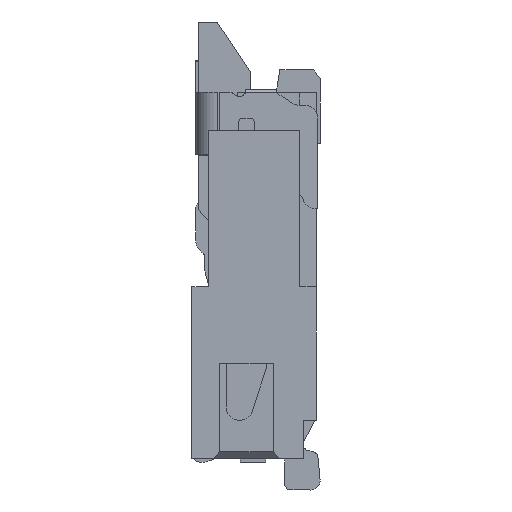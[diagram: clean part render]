
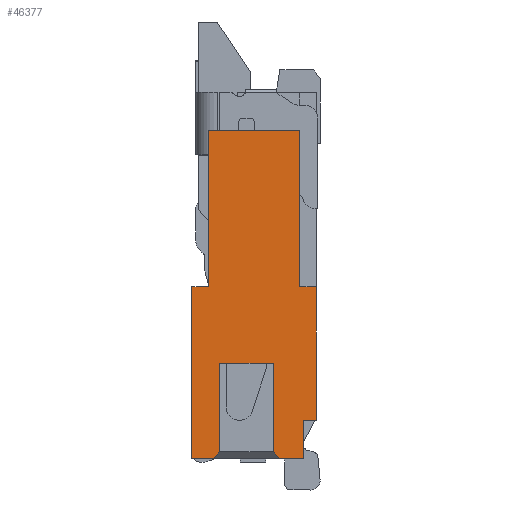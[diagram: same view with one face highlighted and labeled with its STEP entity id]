
A CAD part, left-side view. The second image highlights one B-rep face of the part: STEP entity #46377.
In plain terms, the highlighted planar face has unit normal (-1, 0, 0).
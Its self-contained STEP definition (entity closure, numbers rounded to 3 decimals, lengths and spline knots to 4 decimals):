
#621 = DIRECTION ( 'NONE',  ( 0., 0., 1. ) ) ;
#3571 = DIRECTION ( 'NONE',  ( 0., 1., 0. ) ) ;
#4085 = CARTESIAN_POINT ( 'NONE',  ( -2.1, -0.88, -2.88 ) ) ;
#6993 = CARTESIAN_POINT ( 'NONE',  ( -2.1, -0.64, -2.13 ) ) ;
#7133 = VECTOR ( 'NONE', #59620, 1000. ) ;
#8772 = VERTEX_POINT ( 'NONE', #51119 ) ;
#9006 = LINE ( 'NONE', #27615, #35244 ) ;
#9305 = LINE ( 'NONE', #16772, #62845 ) ;
#10068 = VECTOR ( 'NONE', #621, 1000. ) ;
#10112 = CARTESIAN_POINT ( 'NONE',  ( -2.1, -0.13, -0.3 ) ) ;
#10311 = CARTESIAN_POINT ( 'NONE',  ( -2.1, -0.22, -2.83 ) ) ;
#11397 = CARTESIAN_POINT ( 'NONE',  ( -2.1, -0.22, -2.13 ) ) ;
#12076 = DIRECTION ( 'NONE',  ( 0., 0., 1. ) ) ;
#12144 = EDGE_CURVE ( 'NONE', #80638, #29284, #83424, .T. ) ;
#12417 = VERTEX_POINT ( 'NONE', #11397 ) ;
#12573 = VECTOR ( 'NONE', #79773, 1000. ) ;
#12638 = CARTESIAN_POINT ( 'NONE',  ( -2.1, -0.17, -2.88 ) ) ;
#14072 = ORIENTED_EDGE ( 'NONE', *, *, #82158, .T. ) ;
#16772 = CARTESIAN_POINT ( 'NONE',  ( -2.1, -0.98, -1.53 ) ) ;
#17283 = CARTESIAN_POINT ( 'NONE',  ( -2.1, -0.88, -2.58 ) ) ;
#17541 = VECTOR ( 'NONE', #79291, 1000. ) ;
#17847 = ORIENTED_EDGE ( 'NONE', *, *, #82061, .F. ) ;
#18958 = VECTOR ( 'NONE', #12076, 1000. ) ;
#19109 = LINE ( 'NONE', #72044, #18958 ) ;
#19123 = EDGE_LOOP ( 'NONE', ( #14072, #72172, #57610, #71465, #80764, #67945, #69269, #61207, #38082, #17847, #73382, #20273, #27007, #73166, #48769, #27645 ) ) ;
#19335 = LINE ( 'NONE', #24653, #17541 ) ;
#20256 = LINE ( 'NONE', #66989, #12573 ) ;
#20273 = ORIENTED_EDGE ( 'NONE', *, *, #22013, .T. ) ;
#22013 = EDGE_CURVE ( 'NONE', #34588, #72529, #31197, .T. ) ;
#22245 = LINE ( 'NONE', #49148, #83255 ) ;
#24653 = CARTESIAN_POINT ( 'NONE',  ( -2.1, -0.13, -0.3 ) ) ;
#24884 = VECTOR ( 'NONE', #38880, 1000. ) ;
#25669 = CARTESIAN_POINT ( 'NONE',  ( -2.1, 0., -2.88 ) ) ;
#26812 = CARTESIAN_POINT ( 'NONE',  ( -2.1, -0.64, -2.83 ) ) ;
#27007 = ORIENTED_EDGE ( 'NONE', *, *, #40701, .T. ) ;
#27615 = CARTESIAN_POINT ( 'NONE',  ( -2.1, -0.88, -2.88 ) ) ;
#27645 = ORIENTED_EDGE ( 'NONE', *, *, #84357, .T. ) ;
#27773 = CARTESIAN_POINT ( 'NONE',  ( -2.1, -0.17, -2.88 ) ) ;
#29284 = VERTEX_POINT ( 'NONE', #70118 ) ;
#31197 = LINE ( 'NONE', #12638, #40808 ) ;
#31320 = VERTEX_POINT ( 'NONE', #46216 ) ;
#31659 = DIRECTION ( 'NONE',  ( 0., 0., -1. ) ) ;
#31668 = DIRECTION ( 'NONE',  ( 0., -1., 0. ) ) ;
#32094 = VERTEX_POINT ( 'NONE', #78637 ) ;
#33196 = LINE ( 'NONE', #80787, #35844 ) ;
#34307 = CARTESIAN_POINT ( 'NONE',  ( -2.1, -0.64, -2.13 ) ) ;
#34588 = VERTEX_POINT ( 'NONE', #27773 ) ;
#35244 = VECTOR ( 'NONE', #37195, 1000. ) ;
#35844 = VECTOR ( 'NONE', #73755, 1000. ) ;
#37097 = DIRECTION ( 'NONE',  ( 1., 0., 0. ) ) ;
#37195 = DIRECTION ( 'NONE',  ( 0., 0., 1. ) ) ;
#38082 = ORIENTED_EDGE ( 'NONE', *, *, #75233, .T. ) ;
#38471 = LINE ( 'NONE', #84751, #72695 ) ;
#38672 = VERTEX_POINT ( 'NONE', #34307 ) ;
#38880 = DIRECTION ( 'NONE',  ( 0., -0.707, -0.707 ) ) ;
#40701 = EDGE_CURVE ( 'NONE', #72529, #12417, #82132, .T. ) ;
#40808 = VECTOR ( 'NONE', #58968, 1000. ) ;
#42544 = DIRECTION ( 'NONE',  ( 0., 1., 0. ) ) ;
#43715 = PLANE ( 'NONE',  #58558 ) ;
#44633 = LINE ( 'NONE', #86029, #24884 ) ;
#45217 = EDGE_CURVE ( 'NONE', #60799, #8772, #78832, .T. ) ;
#46048 = VERTEX_POINT ( 'NONE', #51300 ) ;
#46216 = CARTESIAN_POINT ( 'NONE',  ( -2.1, -0.98, -1.53 ) ) ;
#46377 = ADVANCED_FACE ( 'NONE', ( #71463 ), #43715, .F. ) ;
#47344 = VECTOR ( 'NONE', #31668, 1000. ) ;
#48464 = VERTEX_POINT ( 'NONE', #4085 ) ;
#48600 = VECTOR ( 'NONE', #82320, 1000. ) ;
#48769 = ORIENTED_EDGE ( 'NONE', *, *, #83251, .T. ) ;
#49023 = VERTEX_POINT ( 'NONE', #26812 ) ;
#49148 = CARTESIAN_POINT ( 'NONE',  ( -2.1, -0.13, -1.53 ) ) ;
#49661 = CARTESIAN_POINT ( 'NONE',  ( -2.1, 0., -2.88 ) ) ;
#49784 = LINE ( 'NONE', #57715, #66508 ) ;
#50335 = CARTESIAN_POINT ( 'NONE',  ( -2.1, -0.49, -1.59 ) ) ;
#50807 = DIRECTION ( 'NONE',  ( 0., -1., 0. ) ) ;
#51119 = CARTESIAN_POINT ( 'NONE',  ( -2.1, -0.85, -0.3 ) ) ;
#51300 = CARTESIAN_POINT ( 'NONE',  ( -2.1, -0.13, -1.53 ) ) ;
#51678 = EDGE_CURVE ( 'NONE', #56836, #34588, #63754, .T. ) ;
#52866 = VECTOR ( 'NONE', #50807, 1000. ) ;
#53202 = VERTEX_POINT ( 'NONE', #56540 ) ;
#55465 = LINE ( 'NONE', #6993, #48600 ) ;
#56111 = CARTESIAN_POINT ( 'NONE',  ( -2.1, -0.88, -2.58 ) ) ;
#56540 = CARTESIAN_POINT ( 'NONE',  ( -2.1, -0.85, -1.53 ) ) ;
#56836 = VERTEX_POINT ( 'NONE', #49661 ) ;
#57610 = ORIENTED_EDGE ( 'NONE', *, *, #12144, .T. ) ;
#57715 = CARTESIAN_POINT ( 'NONE',  ( -2.1, -0.85, -0.3 ) ) ;
#57849 = EDGE_CURVE ( 'NONE', #29284, #31320, #20256, .T. ) ;
#58558 = AXIS2_PLACEMENT_3D ( 'NONE', #50335, #37097, #84677 ) ;
#58968 = DIRECTION ( 'NONE',  ( 0., -0.707, 0.707 ) ) ;
#59620 = DIRECTION ( 'NONE',  ( 0., -1., 0. ) ) ;
#60799 = VERTEX_POINT ( 'NONE', #10112 ) ;
#60830 = EDGE_CURVE ( 'NONE', #8772, #53202, #49784, .T. ) ;
#61207 = ORIENTED_EDGE ( 'NONE', *, *, #78739, .T. ) ;
#62845 = VECTOR ( 'NONE', #3571, 1000. ) ;
#63754 = LINE ( 'NONE', #25669, #7133 ) ;
#66508 = VECTOR ( 'NONE', #31659, 1000. ) ;
#66649 = DIRECTION ( 'NONE',  ( 0., -1., 0. ) ) ;
#66989 = CARTESIAN_POINT ( 'NONE',  ( -2.1, -0.98, -2.58 ) ) ;
#67945 = ORIENTED_EDGE ( 'NONE', *, *, #60830, .F. ) ;
#69269 = ORIENTED_EDGE ( 'NONE', *, *, #45217, .F. ) ;
#70118 = CARTESIAN_POINT ( 'NONE',  ( -2.1, -0.98, -2.58 ) ) ;
#71463 = FACE_OUTER_BOUND ( 'NONE', #19123, .T. ) ;
#71465 = ORIENTED_EDGE ( 'NONE', *, *, #57849, .T. ) ;
#72044 = CARTESIAN_POINT ( 'NONE',  ( -2.1, 0., -2.88 ) ) ;
#72172 = ORIENTED_EDGE ( 'NONE', *, *, #72532, .T. ) ;
#72529 = VERTEX_POINT ( 'NONE', #10311 ) ;
#72532 = EDGE_CURVE ( 'NONE', #48464, #80638, #9006, .T. ) ;
#72646 = CARTESIAN_POINT ( 'NONE',  ( -2.1, -0.13, -0.3 ) ) ;
#72695 = VECTOR ( 'NONE', #66649, 1000. ) ;
#73166 = ORIENTED_EDGE ( 'NONE', *, *, #85406, .T. ) ;
#73382 = ORIENTED_EDGE ( 'NONE', *, *, #51678, .T. ) ;
#73755 = DIRECTION ( 'NONE',  ( 0., -1., 0. ) ) ;
#75233 = EDGE_CURVE ( 'NONE', #46048, #85010, #22245, .T. ) ;
#78637 = CARTESIAN_POINT ( 'NONE',  ( -2.1, -0.69, -2.88 ) ) ;
#78739 = EDGE_CURVE ( 'NONE', #60799, #46048, #19335, .T. ) ;
#78832 = LINE ( 'NONE', #72646, #47344 ) ;
#79291 = DIRECTION ( 'NONE',  ( 0., 0., -1. ) ) ;
#79773 = DIRECTION ( 'NONE',  ( 0., 0., 1. ) ) ;
#80400 = CARTESIAN_POINT ( 'NONE',  ( -2.1, -0.22, -2.83 ) ) ;
#80638 = VERTEX_POINT ( 'NONE', #56111 ) ;
#80764 = ORIENTED_EDGE ( 'NONE', *, *, #85590, .T. ) ;
#80787 = CARTESIAN_POINT ( 'NONE',  ( -2.1, -0.69, -2.88 ) ) ;
#82061 = EDGE_CURVE ( 'NONE', #56836, #85010, #19109, .T. ) ;
#82132 = LINE ( 'NONE', #80400, #10068 ) ;
#82158 = EDGE_CURVE ( 'NONE', #32094, #48464, #33196, .T. ) ;
#82320 = DIRECTION ( 'NONE',  ( 0., 0., -1. ) ) ;
#83251 = EDGE_CURVE ( 'NONE', #38672, #49023, #55465, .T. ) ;
#83255 = VECTOR ( 'NONE', #42544, 1000. ) ;
#83424 = LINE ( 'NONE', #17283, #52866 ) ;
#84357 = EDGE_CURVE ( 'NONE', #49023, #32094, #44633, .T. ) ;
#84677 = DIRECTION ( 'NONE',  ( 0., 1., 0. ) ) ;
#84751 = CARTESIAN_POINT ( 'NONE',  ( -2.1, -0.22, -2.13 ) ) ;
#85010 = VERTEX_POINT ( 'NONE', #87006 ) ;
#85406 = EDGE_CURVE ( 'NONE', #12417, #38672, #38471, .T. ) ;
#85590 = EDGE_CURVE ( 'NONE', #31320, #53202, #9305, .T. ) ;
#86029 = CARTESIAN_POINT ( 'NONE',  ( -2.1, -0.64, -2.83 ) ) ;
#87006 = CARTESIAN_POINT ( 'NONE',  ( -2.1, 0., -1.53 ) ) ;
